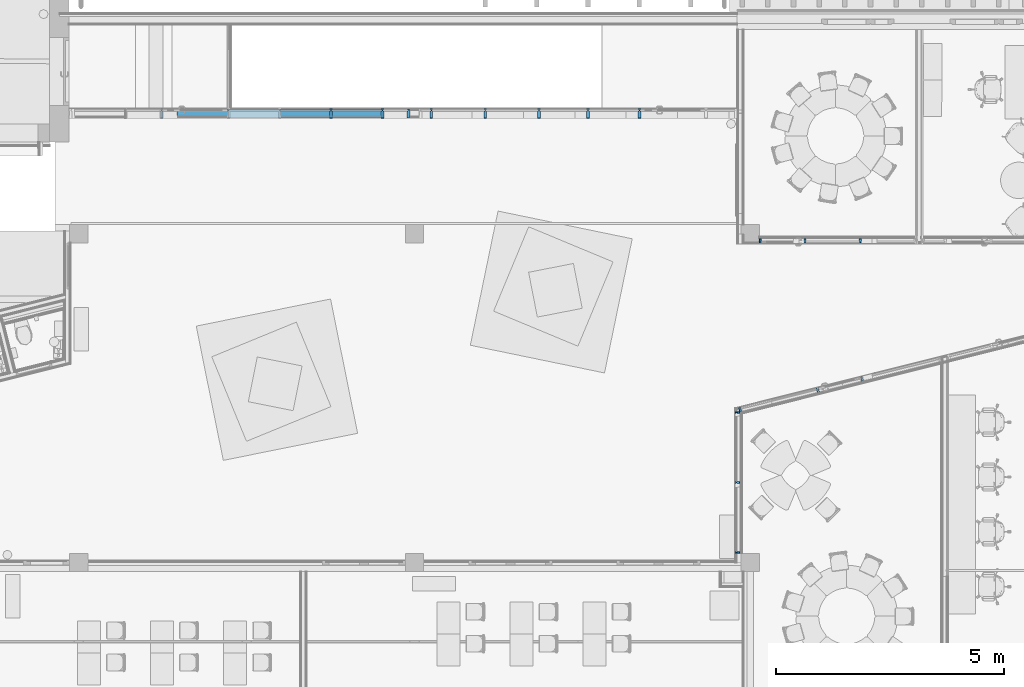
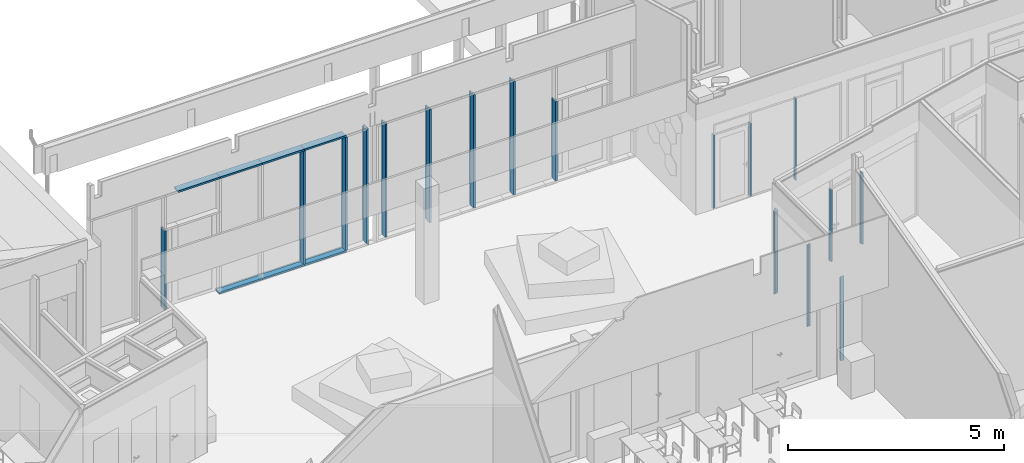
# One storey, part 2 of 153: 25 members, 5 elements without a shape of their own.
"""IFC2X3 building model written with IfcOpenShell, lengths in millimetres."""

from ifc_helpers import new_model, entity, si_unit, converted_unit, derived_unit, money_unit, direction, frame, origin_with_axes, place, context, subcontext, project, spatial, faceted_brep, source, transform, mapped, material, type_object, element, aggregate, save


model = new_model("IFC2X3")

# Units and contexts
model_context = context("Model", 3, precision=0.01, world=origin_with_axes(), true_north=direction((0.0, 1.0)))
body_context = subcontext(model_context, "Body", "Model", "MODEL_VIEW")
ifc_project = project(units=[si_unit("LENGTHUNIT", "METRE", prefix="MILLI"), si_unit("AREAUNIT", "SQUARE_METRE"), si_unit("VOLUMEUNIT", "CUBIC_METRE"), converted_unit("PLANEANGLEUNIT", "DEGREE", entity("IfcPlaneAngleMeasure", 0.0174532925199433), si_unit("PLANEANGLEUNIT", "RADIAN"), dimensions=[0, 0, 0, 0, 0, 0, 0]), money_unit("EUR"), converted_unit("TIMEUNIT", "Year", entity("IfcTimeMeasure", 31557600.0), si_unit("TIMEUNIT", "SECOND"), dimensions=[0, 0, 1, 0, 0, 0, 0]), si_unit("MASSUNIT", "GRAM", prefix="KILO"), si_unit("THERMODYNAMICTEMPERATUREUNIT", "DEGREE_CELSIUS"), si_unit("LUMINOUSINTENSITYUNIT", "LUMEN"), si_unit("ENERGYUNIT", "JOULE", prefix="MEGA"), derived_unit("THERMALCONDUCTANCEUNIT", [(si_unit("POWERUNIT", "WATT"), 1), (si_unit("LENGTHUNIT", "METRE"), -1), (si_unit("THERMODYNAMICTEMPERATUREUNIT", "KELVIN"), -1)]), derived_unit("SPECIFICHEATCAPACITYUNIT", [(si_unit("ENERGYUNIT", "JOULE"), 1), (si_unit("MASSUNIT", "GRAM", prefix="KILO"), -1), (si_unit("THERMODYNAMICTEMPERATUREUNIT", "KELVIN"), -1)]), derived_unit("MASSDENSITYUNIT", [(si_unit("MASSUNIT", "GRAM", prefix="KILO"), 1), (si_unit("VOLUMEUNIT", "CUBIC_METRE"), -1)])], contexts=[model_context])

# Site, building, storey
site_placement = place(None, frame((0.0, 0.0, 8650.0), z_axis=(0.0, 0.0, 1.0), x_axis=(1.0, 0.0, 0.0)))
site = spatial("IfcSite", under=ifc_project, at=site_placement, Name="43301:001:0844", CompositionType="ELEMENT")
building_placement = place(site_placement, origin_with_axes())
building = spatial("IfcBuilding", under=site, at=building_placement, Name="Kuressaare Ametikooli tuulikute mehaanikute õppekorpus", CompositionType="ELEMENT")
storey_placement = place(building_placement, frame((0.0, 0.0, 4100.0), z_axis=(0.0, 0.0, 1.0), x_axis=(1.0, 0.0, 0.0)))
storey = spatial("IfcBuildingStorey", under=building, at=storey_placement, Name="2.korrus", CompositionType="ELEMENT", Elevation=4100.0)

# Curtain wall, members
curtain_wall_type = type_object("IfcCurtainWallType", Name="Curtain Wall Type", PredefinedType="NOTDEFINED")
curtain_wall_1_placement = place(storey_placement, frame((107592.1026822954, 26479.57374875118, 34.9999663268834), z_axis=(0.0, 0.0, 1.0), x_axis=(1.0, 0.0, 0.0)))
curtain_wall_1 = element("IfcCurtainWall", 1, at=curtain_wall_1_placement, inside=storey, type_object=curtain_wall_type, Name="SKF-2.1,EI60")
ifc_material = material(Name="Aluminium")
member_type_1 = type_object("IfcMemberType", Name="Boundary Frame 50 x 200", PredefinedType="NOTDEFINED")
shared_shape_1 = source(origin_with_axes(), body_context, "Body", "Brep", [
    faceted_brep([(-5.000000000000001, -20.0, 1125.0), (-25.0, -19.99999999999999, 1125.0), (-25.0, -170.0, 1125.0), (25.0, -170.0, 1125.0), (25.0, 30.0, 1125.0), (-25.0, 30.0, 1125.0), (-25.0, 19.99999999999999, 1125.0), (-5.000000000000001, 20.0, 1125.0), (-5.000000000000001, -20.0, -25.00000000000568), (-25.0, -19.99999999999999, -25.00000000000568), (-25.0, -170.0, -25.00000000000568), (25.0, -170.0, -25.00000000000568), (25.0, 30.0, -25.00000000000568), (-25.0, 30.0, -25.00000000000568), (-25.0, 19.99999999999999, -25.00000000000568), (-5.000000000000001, 20.0, -25.00000000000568)], [[[0, 1, 2, 3, 4, 5, 6, 7]], [[0, 8, 9, 1]], [[9, 10, 2, 1]], [[10, 11, 3, 2]], [[11, 12, 4, 3]], [[12, 13, 5, 4]], [[6, 5, 13, 14]], [[14, 15, 7, 6]], [[7, 15, 8, 0]], [[8, 15, 14, 13, 12, 11, 10, 9]]]),
])
member_1_placement = place(curtain_wall_1_placement, frame((-449.9999999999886, 0.0, 0.0), z_axis=(1.0, 0.0, 0.0), x_axis=(0.0, 0.0, 1.0)))
member_1 = element("IfcMember", 2, at=member_1_placement, type_object=member_type_1, material=ifc_material, context=body_context, shape_type="MappedRepresentation", body=[
    mapped(shared_shape_1, transform((0.0, 0.0, 0.0), x_axis=(-1.0, 0.0, 0.0), y_axis=(0.0, -1.0, 0.0), z_axis=(0.0, 0.0, 1.0))),
])
shared_shape_2 = source(origin_with_axes(), body_context, "Body", "Brep", [
    faceted_brep([(-5.000000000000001, -20.0, 1125.0), (-25.0, -19.99999999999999, 1125.0), (-25.0, -170.0, 1125.0), (25.0, -170.0, 1125.0), (25.0, 30.0, 1125.0), (-25.0, 30.0, 1125.0), (-25.0, 19.99999999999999, 1125.0), (-5.000000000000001, 20.0, 1125.0), (-5.000000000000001, -20.0, 0.0), (-25.0, -19.99999999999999, 0.0), (-25.0, -170.0, 0.0), (25.0, -170.0, 0.0), (25.0, 30.0, 0.0), (-25.0, 30.0, 0.0), (-25.0, 19.99999999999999, 0.0), (-5.000000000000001, 20.0, 0.0)], [[[0, 1, 2, 3, 4, 5, 6, 7]], [[0, 8, 9, 1]], [[9, 10, 2, 1]], [[10, 11, 3, 2]], [[11, 12, 4, 3]], [[12, 13, 5, 4]], [[6, 5, 13, 14]], [[14, 15, 7, 6]], [[7, 15, 8, 0]], [[8, 15, 14, 13, 12, 11, 10, 9]]]),
])
member_2_placement = place(curtain_wall_1_placement, frame((675.0000000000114, 0.0, 0.0), z_axis=(1.0, 0.0, 0.0), x_axis=(0.0, 0.0, 1.0)))
member_2 = element("IfcMember", 3, at=member_2_placement, type_object=member_type_1, material=ifc_material, context=body_context, shape_type="MappedRepresentation", body=[
    mapped(shared_shape_2, transform((0.0, 0.0, 0.0), x_axis=(-1.0, 0.0, 0.0), y_axis=(0.0, -1.0, 0.0), z_axis=(0.0, 0.0, 1.0))),
])
member_3_placement = place(curtain_wall_1_placement, frame((1800.000000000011, 0.0, 0.0), z_axis=(1.0, 0.0, 0.0), x_axis=(0.0, 0.0, 1.0)))
member_3 = element("IfcMember", 4, at=member_3_placement, type_object=member_type_1, material=ifc_material, context=body_context, shape_type="MappedRepresentation", body=[
    mapped(shared_shape_2, transform((0.0, 0.0, 0.0), x_axis=(-1.0, 0.0, 0.0), y_axis=(0.0, -1.0, 0.0), z_axis=(0.0, 0.0, 1.0))),
])
member_4_placement = place(curtain_wall_1_placement, frame((-449.9999999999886, 0.0, 3260.00005360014), z_axis=(-1.0, 0.0, 0.0), x_axis=(0.0, 0.0, -1.0)))
member_4 = element("IfcMember", 5, at=member_4_placement, type_object=member_type_1, material=ifc_material, context=body_context, shape_type="MappedRepresentation", body=[
    mapped(shared_shape_2, transform((0.0, 0.0, 0.0), x_axis=(-1.0, 0.0, 0.0), y_axis=(0.0, -1.0, 0.0), z_axis=(0.0, 0.0, 1.0))),
])
member_5_placement = place(curtain_wall_1_placement, frame((675.0000000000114, 0.0, 3260.00005360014), z_axis=(-1.0, 0.0, 0.0), x_axis=(0.0, 0.0, -1.0)))
member_5 = element("IfcMember", 6, at=member_5_placement, type_object=member_type_1, material=ifc_material, context=body_context, shape_type="MappedRepresentation", body=[
    mapped(shared_shape_2, transform((0.0, 0.0, 0.0), x_axis=(-1.0, 0.0, 0.0), y_axis=(0.0, -1.0, 0.0), z_axis=(0.0, 0.0, 1.0))),
])
member_6_placement = place(curtain_wall_1_placement, frame((1800.000000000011, 0.0, 3260.00005360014), z_axis=(-1.0, 0.0, 0.0), x_axis=(0.0, 0.0, -1.0)))
member_6 = element("IfcMember", 7, at=member_6_placement, type_object=member_type_1, material=ifc_material, context=body_context, shape_type="MappedRepresentation", body=[
    mapped(shared_shape_2, transform((0.0, 0.0, 0.0), x_axis=(-1.0, 0.0, 0.0), y_axis=(0.0, -1.0, 0.0), z_axis=(0.0, 0.0, 1.0))),
])
member_7_placement = place(curtain_wall_1_placement, frame((2925.000000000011, 0.0, 3260.00005360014), z_axis=(-1.0, 0.0, 0.0), x_axis=(0.0, 0.0, -1.0)))
member_7 = element("IfcMember", 8, at=member_7_placement, type_object=member_type_1, material=ifc_material, context=body_context, shape_type="MappedRepresentation", body=[
    mapped(shared_shape_2, transform((0.0, 0.0, 0.0), x_axis=(-1.0, 0.0, 0.0), y_axis=(0.0, -1.0, 0.0), z_axis=(0.0, 0.0, 1.0))),
])
member_type_2 = type_object("IfcMemberType", Name="Mullion Frame 50 x 200", PredefinedType="NOTDEFINED")
shared_shape_3 = source(origin_with_axes(), body_context, "Body", "Brep", [
    faceted_brep([(5.000000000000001, -20.0, 2275.000031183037), (5.000000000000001, 20.0, 2275.000031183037), (25.0, 19.99999999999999, 2275.000031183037), (25.0, 30.0, 2275.000031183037), (-25.0, 30.0, 2275.000031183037), (-25.0, 20.0, 2275.000031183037), (-5.000000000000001, 20.0, 2275.000031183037), (-5.000000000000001, -20.0, 2275.000031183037), (-25.0, -20.0, 2275.000031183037), (-25.0, -170.0, 2275.000031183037), (25.0, -170.0, 2275.000031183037), (25.0, -19.99999999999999, 2275.000031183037), (5.000000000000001, -20.0, 24.99999999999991), (5.000000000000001, 20.0, 24.99999999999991), (25.0, 20.0, 24.99999999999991), (25.0, 30.0, 24.99999999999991), (-25.0, 30.0, 24.99999999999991), (-25.0, 19.99999999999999, 24.99999999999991), (-5.000000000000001, 20.0, 24.99999999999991), (-5.000000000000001, -20.0, 24.99999999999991), (-25.0, -19.99999999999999, 24.99999999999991), (-25.0, -170.0, 24.99999999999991), (25.0, -170.0, 24.99999999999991), (25.0, -20.0, 24.99999999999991)], [[[0, 1, 2, 3, 4, 5, 6, 7, 8, 9, 10, 11]], [[0, 12, 13, 1]], [[1, 13, 14, 2]], [[14, 15, 3, 2]], [[4, 3, 15, 16]], [[17, 5, 4, 16]], [[5, 17, 18, 6]], [[7, 6, 18, 19]], [[8, 7, 19, 20]], [[8, 20, 21, 9]], [[10, 9, 21, 22]], [[11, 10, 22, 23]], [[11, 23, 12, 0]], [[13, 12, 23, 22, 21, 20, 19, 18, 17, 16, 15, 14]]]),
])
member_8_placement = place(curtain_wall_1_placement, frame((-1910.000006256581, 0.0, 0.0), z_axis=(0.0, 0.0, 1.0), x_axis=(-1.0, 0.0, 0.0)))
member_8 = element("IfcMember", 9, at=member_8_placement, type_object=member_type_2, material=ifc_material, context=body_context, shape_type="MappedRepresentation", body=[
    mapped(shared_shape_3, transform((0.0, 0.0, 0.0), x_axis=(-1.0, 0.0, 0.0), y_axis=(0.0, -1.0, 0.0), z_axis=(0.0, 0.0, 1.0))),
])

# Curtain wall, member
curtain_wall_2_placement = place(storey_placement, frame((116907.3849272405, 26479.57374875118, 34.9999663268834), z_axis=(0.0, 0.0, 1.0), x_axis=(1.0, 0.0, 0.0)))
curtain_wall_2 = element("IfcCurtainWall", 10, at=curtain_wall_2_placement, inside=storey, type_object=curtain_wall_type, Name="SKF-2.2,EI60")
member_9_placement = place(curtain_wall_2_placement, frame((-765.2822352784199, 0.0, 0.0), z_axis=(0.0, 0.0, 1.0), x_axis=(-1.0, 0.0, 0.0)))
member_9 = element("IfcMember", 11, at=member_9_placement, type_object=member_type_2, material=ifc_material, context=body_context, shape_type="MappedRepresentation", body=[
    mapped(shared_shape_3, transform((0.0, 0.0, 0.0), x_axis=(-1.0, 0.0, 0.0), y_axis=(0.0, -1.0, 0.0), z_axis=(0.0, 0.0, 1.0))),
])

# Member
shared_shape_4 = source(origin_with_axes(), body_context, "Body", "Brep", [
    faceted_brep([(5.000000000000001, -20.0, 3235.000053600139), (5.000000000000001, 20.0, 3235.000053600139), (25.0, 19.99999999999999, 3235.000053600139), (25.0, 30.0, 3235.000053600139), (-25.0, 30.0, 3235.000053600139), (-25.0, 20.0, 3235.000053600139), (-5.000000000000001, 20.0, 3235.000053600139), (-5.000000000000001, -20.0, 3235.000053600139), (-25.0, -20.0, 3235.000053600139), (-25.0, -170.0, 3235.000053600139), (25.0, -170.0, 3235.000053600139), (25.0, -19.99999999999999, 3235.000053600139), (5.000000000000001, -20.0, 24.99999999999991), (5.000000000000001, 20.0, 24.99999999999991), (25.0, 20.0, 24.99999999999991), (25.0, 30.0, 24.99999999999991), (-25.0, 30.0, 24.99999999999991), (-25.0, 19.99999999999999, 24.99999999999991), (-5.000000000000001, 20.0, 24.99999999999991), (-5.000000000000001, -20.0, 24.99999999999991), (-25.0, -19.99999999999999, 24.99999999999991), (-25.0, -170.0, 24.99999999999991), (25.0, -170.0, 24.99999999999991), (25.0, -20.0, 24.99999999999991)], [[[0, 1, 2, 3, 4, 5, 6, 7, 8, 9, 10, 11]], [[0, 12, 13, 1]], [[1, 13, 14, 2]], [[14, 15, 3, 2]], [[4, 3, 15, 16]], [[17, 5, 4, 16]], [[5, 17, 18, 6]], [[7, 6, 18, 19]], [[8, 7, 19, 20]], [[8, 20, 21, 9]], [[10, 9, 21, 22]], [[11, 10, 22, 23]], [[11, 23, 12, 0]], [[13, 12, 23, 22, 21, 20, 19, 18, 17, 16, 15, 14]]]),
])
member_10_placement = place(curtain_wall_1_placement, frame((1800.000000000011, 0.0, 0.0), z_axis=(0.0, 0.0, 1.0), x_axis=(-1.0, 0.0, 0.0)))
member_10 = element("IfcMember", 12, at=member_10_placement, type_object=member_type_2, material=ifc_material, context=body_context, shape_type="MappedRepresentation", body=[
    mapped(shared_shape_4, transform((0.0, 0.0, 0.0), x_axis=(-1.0, 0.0, 0.0), y_axis=(0.0, -1.0, 0.0), z_axis=(0.0, 0.0, 1.0))),
])

member_11_placement = place(curtain_wall_1_placement, frame((2925.000000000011, 0.0, 0.0), z_axis=(0.0, 0.0, 1.0), x_axis=(-1.0, 0.0, 0.0)))
member_11 = element("IfcMember", 13, at=member_11_placement, type_object=member_type_2, material=ifc_material, context=body_context, shape_type="MappedRepresentation", body=[
    mapped(shared_shape_4, transform((0.0, 0.0, 0.0), x_axis=(-1.0, 0.0, 0.0), y_axis=(0.0, -1.0, 0.0), z_axis=(0.0, 0.0, 1.0))),
])

member_12_placement = place(curtain_wall_2_placement, frame((-5320.345028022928, 0.0, 0.0), z_axis=(0.0, 0.0, 1.0), x_axis=(-1.0, 0.0, 0.0)))
member_12 = element("IfcMember", 14, at=member_12_placement, type_object=member_type_2, material=ifc_material, context=body_context, shape_type="MappedRepresentation", body=[
    mapped(shared_shape_4, transform((0.0, 0.0, 0.0), x_axis=(-1.0, 0.0, 0.0), y_axis=(0.0, -1.0, 0.0), z_axis=(0.0, 0.0, 1.0))),
])

member_13_placement = place(curtain_wall_2_placement, frame((-4140.28223672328, 0.0, 0.0), z_axis=(4.030983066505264e-09, 0.0, 1.0), x_axis=(-1.0, 0.0, 4.030983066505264e-09)))
member_13 = element("IfcMember", 15, at=member_13_placement, type_object=member_type_2, material=ifc_material, context=body_context, shape_type="MappedRepresentation", body=[
    mapped(shared_shape_4, transform((0.0, 0.0, 0.0), x_axis=(-1.0, 0.0, 4.030983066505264e-09), y_axis=(0.0, -1.0, 0.0), z_axis=(4.030983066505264e-09, 0.0, 1.0))),
])

member_14_placement = place(curtain_wall_2_placement, frame((-2960.219440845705, 0.0, 0.0), z_axis=(6.823014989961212e-09, 0.0, 1.0), x_axis=(-1.0, 0.0, 6.823014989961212e-09)))
member_14 = element("IfcMember", 16, at=member_14_placement, type_object=member_type_2, material=ifc_material, context=body_context, shape_type="MappedRepresentation", body=[
    mapped(shared_shape_4, transform((0.0, 0.0, 0.0), x_axis=(-1.0, 0.0, 6.823014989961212e-09), y_axis=(0.0, -1.0, 0.0), z_axis=(6.823014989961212e-09, 0.0, 1.0))),
])

member_15_placement = place(curtain_wall_2_placement, frame((-1890.28223576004, 0.0, 0.0), z_axis=(4.030983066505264e-09, 0.0, 1.0), x_axis=(-1.0, 0.0, 4.030983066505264e-09)))
member_15 = element("IfcMember", 17, at=member_15_placement, type_object=member_type_2, material=ifc_material, context=body_context, shape_type="MappedRepresentation", body=[
    mapped(shared_shape_4, transform((0.0, 0.0, 0.0), x_axis=(-1.0, 0.0, 4.030983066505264e-09), y_axis=(0.0, -1.0, 0.0), z_axis=(4.030983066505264e-09, 0.0, 1.0))),
])

aggregate(curtain_wall_2, [member_12, member_13, member_14, member_15, member_9])

shared_shape_5 = source(origin_with_axes(), body_context, "Body", "Brep", [
    faceted_brep([(-5.000000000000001, -20.0, 3255.000092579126), (-25.0, -20.0, 3235.000090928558), (-25.0, -170.0, 3235.000090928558), (25.0, -170.0, 3285.000095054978), (25.0, 30.0, 3285.000095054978), (-25.0, 30.0, 3235.000090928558), (-25.0, 20.0, 3235.000090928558), (-5.000000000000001, 20.0, 3255.000092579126), (-5.000000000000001, -20.0, 4.999999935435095), (-25.0, -19.99999999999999, 24.99999967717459), (-25.0, -170.0, 24.99999967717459), (25.0, -170.0, -24.99999967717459), (25.0, 30.0, -24.99999967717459), (-25.0, 30.0, 24.99999967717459), (-25.0, 19.99999999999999, 24.99999967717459), (-5.000000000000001, 20.0, 4.999999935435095)], [[[0, 1, 2, 3, 4, 5, 6, 7]], [[0, 8, 9, 1]], [[9, 10, 2, 1]], [[2, 10, 11, 3]], [[3, 11, 12, 4]], [[4, 12, 13, 5]], [[6, 5, 13, 14]], [[14, 15, 7, 6]], [[7, 15, 8, 0]], [[8, 15, 14, 13, 12, 11, 10, 9]]]),
])
member_16_placement = place(curtain_wall_1_placement, frame((3490.846695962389, 0.0, 0.0), z_axis=(1.291301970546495e-08, 0.0, 0.9999999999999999), x_axis=(-0.9999999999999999, 0.0, 1.291301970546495e-08)))
member_16 = element("IfcMember", 18, at=member_16_placement, type_object=member_type_1, material=ifc_material, context=body_context, shape_type="MappedRepresentation", body=[
    mapped(shared_shape_5, transform((0.0, 0.0, 0.0), x_axis=(-0.9999999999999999, 0.0, 1.291301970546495e-08), y_axis=(0.0, -1.0, 0.0), z_axis=(1.291301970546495e-08, 0.0, 0.9999999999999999))),
])

aggregate(curtain_wall_1, [member_1, member_2, member_3, member_8, member_4, member_5, member_6, member_10, member_7, member_11, member_16])

# Curtain wall, members
curtain_wall_3_placement = place(storey_placement, frame((118271.9466433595, 17776.77433456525, 0.0), z_axis=(0.0, 0.0, 1.0), x_axis=(1.0, 0.0, 0.0)))
curtain_wall_3 = element("IfcCurtainWall", 19, at=curtain_wall_3_placement, inside=storey, type_object=curtain_wall_type, Name="PKF-2.1")
member_type_3 = type_object("IfcMemberType", Name="Boundary Frame 40 x 90", PredefinedType="NOTDEFINED")
shared_shape_6 = source(origin_with_axes(), body_context, "Body", "Brep", [
    faceted_brep([(25.0, -15.0, 2375.000049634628), (25.0, 15.0, 2375.000049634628), (40.0, 15.0, 2360.000049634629), (40.0, 24.99999999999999, 2360.000049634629), (0.0, 24.99999999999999, 2400.000049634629), (0.0, 0.0, 2400.000049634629), (0.0, -65.0, 2400.000049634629), (40.0, -65.0, 2360.000049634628), (40.0, -15.0, 2360.000049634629), (25.0, -15.0, 24.99999999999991), (25.0, 15.0, 24.99999999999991), (40.0, 15.0, 40.00000000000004), (40.0, 24.99999999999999, 40.00000000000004), (0.0, 24.99999999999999, 0.0), (0.0, 0.0, 0.0), (0.0, -65.0, 0.0), (40.0, -65.0, 40.00000000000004), (40.0, -15.0, 40.00000000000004)], [[[0, 1, 2, 3, 4, 5, 6, 7, 8]], [[1, 0, 9, 10]], [[11, 2, 1, 10]], [[2, 11, 12, 3]], [[4, 3, 12, 13]], [[5, 4, 13, 14]], [[6, 5, 14, 15]], [[7, 6, 15, 16]], [[17, 8, 7, 16]], [[0, 8, 17, 9]], [[9, 17, 16, 15, 14, 13, 12, 11, 10]]]),
])
member_17_placement = place(curtain_wall_3_placement, frame((0.0, 2104.143511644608, 2400.000049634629), z_axis=(0.0, 0.0, -1.0), x_axis=(0.0, -1.0, 0.0)))
member_17 = element("IfcMember", 20, at=member_17_placement, type_object=member_type_3, material=ifc_material, context=body_context, shape_type="MappedRepresentation", body=[
    mapped(shared_shape_6, transform((0.0, 0.0, 0.0))),
])
member_18_placement = place(curtain_wall_3_placement, frame((0.0, -1002.727405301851, 0.0), z_axis=(0.0, 0.0, 1.0), x_axis=(0.0, 1.0, 0.0)))
member_18 = element("IfcMember", 21, at=member_18_placement, type_object=member_type_3, material=ifc_material, context=body_context, shape_type="MappedRepresentation", body=[
    mapped(shared_shape_6, transform((0.0, 0.0, 0.0))),
])

# Curtain wall, member
curtain_wall_4_placement = place(storey_placement, frame((120547.3158940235, 20502.05468019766, 0.0), z_axis=(0.0, 0.0, 1.0), x_axis=(1.0, 0.0, 0.0)))
curtain_wall_4 = element("IfcCurtainWall", 22, at=curtain_wall_4_placement, inside=storey, type_object=curtain_wall_type, Name="PKF-2.2")
member_19_placement = place(curtain_wall_4_placement, frame((-2226.171209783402, -558.0868472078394, 0.0), z_axis=(0.0, 0.0, 1.0), x_axis=(0.9699839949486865, 0.2431687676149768, 0.0)))
member_19 = element("IfcMember", 23, at=member_19_placement, type_object=member_type_3, material=ifc_material, context=body_context, shape_type="MappedRepresentation", body=[
    mapped(shared_shape_6, transform((0.0, 0.0, 0.0))),
])

# Member
member_type_4 = type_object("IfcMemberType", Name="Mullion Frame 40 x 90", PredefinedType="NOTDEFINED")
shared_shape_7 = source(origin_with_axes(), body_context, "Body", "Brep", [
    faceted_brep([(-5.000000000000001, -15.0, 2360.000049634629), (-20.0, -15.0, 2360.000049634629), (-20.0, -65.0, 2360.000049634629), (20.0, -65.0, 2360.000049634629), (20.0, -15.0, 2360.000049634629), (5.000000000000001, -15.0, 2360.000049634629), (5.000000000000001, 15.0, 2360.000049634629), (20.0, 15.0, 2360.000049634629), (20.0, 24.99999999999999, 2360.000049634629), (-20.0, 24.99999999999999, 2360.000049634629), (-20.0, 15.0, 2360.000049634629), (-5.000000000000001, 15.0, 2360.000049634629), (-5.000000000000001, -15.0, 40.00000000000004), (-20.0, -15.0, 40.00000000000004), (-20.0, -65.0, 40.00000000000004), (20.0, -65.0, 40.00000000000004), (20.0, -15.0, 40.00000000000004), (5.000000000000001, -15.0, 40.00000000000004), (5.000000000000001, 15.0, 40.00000000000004), (20.0, 15.0, 40.00000000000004), (20.0, 24.99999999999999, 40.00000000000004), (-20.0, 24.99999999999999, 40.00000000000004), (-20.0, 15.0, 40.00000000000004), (-5.000000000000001, 15.0, 40.00000000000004)], [[[0, 1, 2, 3, 4, 5, 6, 7, 8, 9, 10, 11]], [[1, 0, 12, 13]], [[1, 13, 14, 2]], [[2, 14, 15, 3]], [[4, 3, 15, 16]], [[4, 16, 17, 5]], [[5, 17, 18, 6]], [[7, 6, 18, 19]], [[19, 20, 8, 7]], [[8, 20, 21, 9]], [[22, 10, 9, 21]], [[11, 10, 22, 23]], [[0, 11, 23, 12]], [[23, 22, 21, 20, 19, 18, 17, 16, 15, 14, 13, 12]]]),
])
member_20_placement = place(curtain_wall_3_placement, frame((0.0, 550.7080374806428, 0.0), z_axis=(0.0, 0.0, 1.0), x_axis=(0.0, 1.0, 0.0)))
member_20 = element("IfcMember", 24, at=member_20_placement, type_object=member_type_4, material=ifc_material, context=body_context, shape_type="MappedRepresentation", body=[
    mapped(shared_shape_7, transform((0.0, 0.0, 0.0))),
])

aggregate(curtain_wall_3, [member_17, member_18, member_20])

# Curtain wall, member
curtain_wall_5_placement = place(storey_placement, frame((119422.8886145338, 23599.06892395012, 7.49398259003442e-05), z_axis=(0.0, 0.0, 1.0), x_axis=(1.0, 0.0, 0.0)))
curtain_wall_5 = element("IfcCurtainWall", 25, at=curtain_wall_5_placement, inside=storey, type_object=curtain_wall_type, Name="PKF-1.1")
member_21_placement = place(curtain_wall_5_placement, frame((1559.618853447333, 0.0, -7.493982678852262e-05), z_axis=(0.0, 0.0, 1.0), x_axis=(-1.0, 0.0, 0.0)))
member_21 = element("IfcMember", 26, at=member_21_placement, type_object=member_type_4, material=ifc_material, context=body_context, shape_type="MappedRepresentation", body=[
    mapped(shared_shape_7, transform((0.0, 0.0, 0.0))),
])

# Member
shared_shape_8 = source(origin_with_axes(), body_context, "Body", "Brep", [
    faceted_brep([(-4.999999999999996, -15.0, 2080.000033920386), (-20.0, -15.0, 2080.000033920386), (-20.0, -65.0, 2080.000033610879), (20.0, -65.0, 2080.000033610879), (20.0, -15.00000000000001, 2080.000033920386), (4.999999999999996, -15.0, 2080.000033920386), (5.000000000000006, 15.0, 2080.00003410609), (20.0, 15.0, 2080.00003410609), (20.0, 24.99999999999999, 2080.000034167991), (-20.0, 24.99999999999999, 2080.000034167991), (-20.0, 14.99999999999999, 2080.00003410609), (-5.000000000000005, 15.0, 2080.00003410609), (-4.999999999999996, -15.0, 40.00000000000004), (-20.0, -15.00000000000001, 40.00000000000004), (-20.0, -65.0, 40.00000000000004), (20.0, -65.0, 40.00000000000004), (20.0, -15.0, 40.00000000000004), (4.999999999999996, -15.0, 40.00000000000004), (5.000000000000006, 15.0, 40.00000000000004), (20.0, 15.0, 40.00000000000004), (20.0, 24.99999999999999, 40.00000000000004), (-20.0, 24.99999999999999, 40.00000000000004), (-20.0, 14.99999999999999, 40.00000000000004), (-5.000000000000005, 15.0, 40.00000000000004)], [[[0, 1, 2, 3, 4, 5, 6, 7, 8, 9, 10, 11]], [[1, 0, 12, 13]], [[1, 13, 14, 2]], [[2, 14, 15, 3]], [[4, 3, 15, 16]], [[4, 16, 17, 5]], [[5, 17, 18, 6]], [[7, 6, 18, 19]], [[19, 20, 8, 7]], [[8, 20, 21, 9]], [[22, 10, 9, 21]], [[11, 10, 22, 23]], [[0, 11, 23, 12]], [[23, 22, 21, 20, 19, 18, 17, 16, 15, 14, 13, 12]]]),
])
member_22_placement = place(curtain_wall_4_placement, frame((466.5028368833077, 116.9492698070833, 0.0), z_axis=(0.0, 0.0, 1.0), x_axis=(0.9699839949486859, 0.2431687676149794, 0.0)))
member_22 = element("IfcMember", 27, at=member_22_placement, type_object=member_type_4, material=ifc_material, context=body_context, shape_type="MappedRepresentation", body=[
    mapped(shared_shape_8, transform((0.0, 0.0, 0.0))),
])

member_23_placement = place(curtain_wall_4_placement, frame((-503.1880193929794, -126.1460098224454, 0.0), z_axis=(0.0, 0.0, 1.0), x_axis=(0.9699839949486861, 0.2431687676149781, 0.0)))
member_23 = element("IfcMember", 28, at=member_23_placement, type_object=member_type_4, material=ifc_material, context=body_context, shape_type="MappedRepresentation", body=[
    mapped(shared_shape_8, transform((0.0, 0.0, 0.0))),
])

aggregate(curtain_wall_4, [member_22, member_23, member_19])

shared_shape_9 = source(origin_with_axes(), body_context, "Body", "Brep", [
    faceted_brep([(25.0, -15.0, 2074.999996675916), (25.0, 15.0, 2074.999996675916), (40.0, 15.0, 2059.999996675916), (40.0, 24.99999999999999, 2059.999996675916), (0.0, 24.99999999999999, 2099.999996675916), (0.0, 0.0, 2099.999996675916), (0.0, -65.0, 2099.999996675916), (40.0, -65.0, 2059.999996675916), (40.0, -15.0, 2059.999996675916), (25.0, -15.0, 12.49999999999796), (25.0, 15.0, 12.49999999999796), (40.00000000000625, 15.0, 20.00000000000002), (40.00000000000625, 24.99999999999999, 20.00000000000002), (0.0, 24.99999999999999, 0.0), (0.0, 0.0, 0.0), (0.0, -64.99999999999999, 0.0), (40.00000000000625, -65.0, 20.00000000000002), (40.00000000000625, -15.0, 20.00000000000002)], [[[0, 1, 2, 3, 4, 5, 6, 7, 8]], [[1, 0, 9, 10]], [[11, 2, 1, 10]], [[2, 11, 12, 3]], [[13, 4, 3, 12]], [[14, 5, 4, 13]], [[15, 6, 5, 14]], [[16, 7, 6, 15]], [[17, 8, 7, 16]], [[0, 8, 17, 9]], [[9, 17, 16, 15, 14, 13, 12, 11, 10]]]),
])
member_24_placement = place(curtain_wall_5_placement, frame((-654.9420386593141, 0.0, 2099.999921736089), z_axis=(0.0, 0.0, -1.0), x_axis=(1.0, 0.0, 0.0)))
member_24 = element("IfcMember", 29, at=member_24_placement, type_object=member_type_3, material=ifc_material, context=body_context, shape_type="MappedRepresentation", body=[
    mapped(shared_shape_9, transform((0.0, 0.0, 0.0))),
])

shared_shape_10 = source(origin_with_axes(), body_context, "Body", "Brep", [
    faceted_brep([(-5.000000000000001, -15.0, 2079.999996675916), (-20.0, -15.0, 2079.999996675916), (-20.0, -65.0, 2079.999996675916), (20.0, -65.0, 2079.999996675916), (20.0, -15.0, 2079.999996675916), (5.000000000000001, -15.0, 2079.999996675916), (5.000000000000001, 15.0, 2079.999996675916), (20.0, 15.0, 2079.999996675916), (20.0, 24.99999999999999, 2079.999996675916), (-20.0, 24.99999999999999, 2079.999996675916), (-20.0, 15.0, 2079.999996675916), (-5.000000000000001, 15.0, 2079.999996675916), (-5.000000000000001, -15.0, 10.00000000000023), (-20.0, -15.0, 10.00000000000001), (-20.0, -65.0, 10.00000000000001), (20.0, -65.0, 10.00000000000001), (20.0, -15.0, 10.00000000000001), (5.000000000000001, -15.0, 10.00000000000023), (5.000000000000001, 15.0, 10.00000000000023), (20.0, 15.0, 10.00000000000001), (20.0, 24.99999999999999, 10.00000000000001), (-20.0, 24.99999999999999, 10.00000000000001), (-20.0, 15.0, 10.00000000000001), (-5.000000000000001, 15.0, 10.00000000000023)], [[[0, 1, 2, 3, 4, 5, 6, 7, 8, 9, 10, 11]], [[1, 0, 12, 13]], [[1, 13, 14, 2]], [[2, 14, 15, 3]], [[4, 3, 15, 16]], [[4, 16, 17, 5]], [[5, 17, 18, 6]], [[7, 6, 18, 19]], [[19, 20, 8, 7]], [[8, 20, 21, 9]], [[22, 10, 9, 21]], [[11, 10, 22, 23]], [[0, 11, 23, 12]], [[23, 22, 21, 20, 19, 18, 17, 16, 15, 14, 13, 12]]]),
])
member_25_placement = place(curtain_wall_5_placement, frame((345.0579609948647, 0.0, -7.493982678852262e-05), z_axis=(0.0, 0.0, 1.0), x_axis=(-1.0, 0.0, 0.0)))
member_25 = element("IfcMember", 30, at=member_25_placement, type_object=member_type_4, material=ifc_material, context=body_context, shape_type="MappedRepresentation", body=[
    mapped(shared_shape_10, transform((0.0, 0.0, 0.0))),
])

aggregate(curtain_wall_5, [member_24, member_21, member_25])

save(model, "model.ifc")
